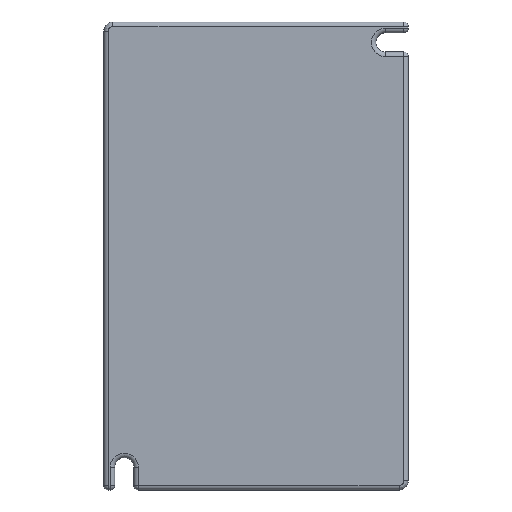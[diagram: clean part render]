
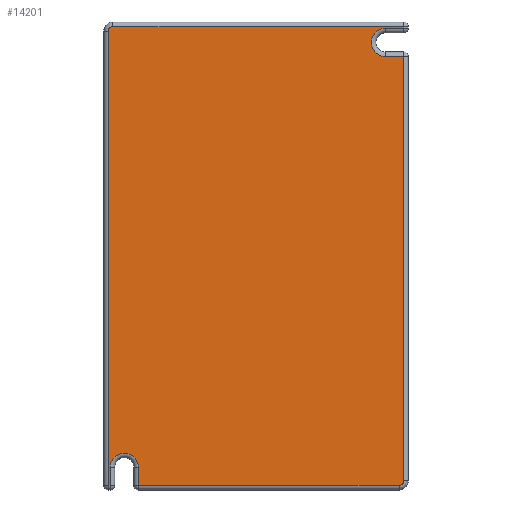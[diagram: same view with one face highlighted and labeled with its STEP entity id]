
A CAD part, front view. The second image highlights one B-rep face of the part: STEP entity #14201.
In plain terms, the highlighted planar face has unit normal (0, -1, 0).
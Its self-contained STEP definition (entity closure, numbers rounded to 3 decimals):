
#4112=DIRECTION('',(0.,0.,-1.));
#4113=VECTOR('',#4112,100.);
#4114=CARTESIAN_POINT('',(-32.5,0.,49.5));
#4115=LINE('',#4114,#4113);
#4119=CARTESIAN_POINT('',(-31.5,0.,49.5));
#4120=DIRECTION('',(0.,-1.,0.));
#4121=DIRECTION('',(0.,0.,1.));
#4122=AXIS2_PLACEMENT_3D('',#4119,#4120,#4121);
#4127=DIRECTION('',(-1.,0.,0.));
#4128=VECTOR('',#4127,64.);
#4129=CARTESIAN_POINT('',(32.5,0.,50.5));
#4130=LINE('',#4129,#4128);
#4134=DIRECTION('',(0.,0.,1.));
#4135=VECTOR('',#4134,0.4);
#4136=CARTESIAN_POINT('',(32.5,0.,50.1));
#4137=LINE('',#4136,#4135);
#4141=DIRECTION('',(1.,0.,0.));
#4142=VECTOR('',#4141,4.);
#4143=CARTESIAN_POINT('',(28.5,0.,50.1));
#4144=LINE('',#4143,#4142);
#4148=CARTESIAN_POINT('',(28.5,0.,47.));
#4149=DIRECTION('',(0.,1.,0.));
#4150=DIRECTION('',(0.,0.,-1.));
#4151=AXIS2_PLACEMENT_3D('',#4148,#4149,#4150);
#4156=DIRECTION('',(-1.,0.,0.));
#4157=VECTOR('',#4156,4.);
#4158=CARTESIAN_POINT('',(32.5,0.,43.9));
#4159=LINE('',#4158,#4157);
#4163=DIRECTION('',(0.,0.,1.));
#4164=VECTOR('',#4163,93.4);
#4165=CARTESIAN_POINT('',(32.5,0.,-49.5));
#4166=LINE('',#4165,#4164);
#4170=CARTESIAN_POINT('',(31.5,0.,-49.5));
#4171=DIRECTION('',(0.,-1.,0.));
#4172=DIRECTION('',(0.,0.,-1.));
#4173=AXIS2_PLACEMENT_3D('',#4170,#4171,#4172);
#4178=DIRECTION('',(1.,0.,0.));
#4179=VECTOR('',#4178,57.4);
#4180=CARTESIAN_POINT('',(-25.9,0.,-50.5));
#4181=LINE('',#4180,#4179);
#4185=DIRECTION('',(0.,0.,-1.));
#4186=VECTOR('',#4185,4.);
#4187=CARTESIAN_POINT('',(-25.9,0.,-46.5));
#4188=LINE('',#4187,#4186);
#4192=CARTESIAN_POINT('',(-29.,0.,-46.5));
#4193=DIRECTION('',(0.,1.,0.));
#4194=DIRECTION('',(-1.,0.,0.));
#4195=AXIS2_PLACEMENT_3D('',#4192,#4193,#4194);
#4200=DIRECTION('',(0.,0.,1.));
#4201=VECTOR('',#4200,4.);
#4202=CARTESIAN_POINT('',(-32.1,0.,-50.5));
#4203=LINE('',#4202,#4201);
#4207=DIRECTION('',(1.,0.,0.));
#4208=VECTOR('',#4207,0.4);
#4209=CARTESIAN_POINT('',(-32.5,0.,-50.5));
#4210=LINE('',#4209,#4208);
#10682=CARTESIAN_POINT('',(-32.5,0.,49.5));
#10683=CARTESIAN_POINT('',(-32.5,0.,-50.5));
#10684=VERTEX_POINT('',#10682);
#10685=VERTEX_POINT('',#10683);
#10686=CARTESIAN_POINT('',(-31.5,0.,50.5));
#10687=VERTEX_POINT('',#10686);
#10690=CARTESIAN_POINT('',(32.5,0.,50.5));
#10691=VERTEX_POINT('',#10690);
#10698=CARTESIAN_POINT('',(32.5,0.,-49.5));
#10699=CARTESIAN_POINT('',(32.5,0.,43.9));
#10700=VERTEX_POINT('',#10698);
#10701=VERTEX_POINT('',#10699);
#10702=CARTESIAN_POINT('',(31.5,0.,-50.5));
#10703=VERTEX_POINT('',#10702);
#10706=CARTESIAN_POINT('',(-32.1,0.,-50.5));
#10707=VERTEX_POINT('',#10706);
#10722=CARTESIAN_POINT('',(32.5,0.,50.1));
#10723=VERTEX_POINT('',#10722);
#10724=CARTESIAN_POINT('',(-25.9,0.,-50.5));
#10725=VERTEX_POINT('',#10724);
#10726=CARTESIAN_POINT('',(-32.1,0.,-46.5));
#10727=CARTESIAN_POINT('',(-25.9,0.,-46.5));
#10728=VERTEX_POINT('',#10726);
#10729=VERTEX_POINT('',#10727);
#10734=CARTESIAN_POINT('',(28.5,0.,43.9));
#10735=VERTEX_POINT('',#10734);
#10738=CARTESIAN_POINT('',(28.5,0.,50.1));
#10739=VERTEX_POINT('',#10738);
#14168=CARTESIAN_POINT('',(0.,0.,0.));
#14169=DIRECTION('',(0.,1.,0.));
#14170=DIRECTION('',(1.,0.,0.));
#14171=AXIS2_PLACEMENT_3D('',#14168,#14169,#14170);
#14172=PLANE('',#14171);
#14173=ORIENTED_EDGE('',*,*,#14134,.F.);
#14174=ORIENTED_EDGE('',*,*,#14158,.F.);
#14176=ORIENTED_EDGE('',*,*,#14175,.F.);
#14178=ORIENTED_EDGE('',*,*,#14177,.F.);
#14180=ORIENTED_EDGE('',*,*,#14179,.F.);
#14182=ORIENTED_EDGE('',*,*,#14181,.F.);
#14184=ORIENTED_EDGE('',*,*,#14183,.F.);
#14186=ORIENTED_EDGE('',*,*,#14185,.F.);
#14188=ORIENTED_EDGE('',*,*,#14187,.F.);
#14190=ORIENTED_EDGE('',*,*,#14189,.F.);
#14192=ORIENTED_EDGE('',*,*,#14191,.F.);
#14194=ORIENTED_EDGE('',*,*,#14193,.F.);
#14196=ORIENTED_EDGE('',*,*,#14195,.F.);
#14198=ORIENTED_EDGE('',*,*,#14197,.F.);
#14199=EDGE_LOOP('',(#14173,#14174,#14176,#14178,#14180,#14182,#14184,#14186,
#14188,#14190,#14192,#14194,#14196,#14198));
#14200=FACE_OUTER_BOUND('',#14199,.F.);
#4123=CIRCLE('',#4122,1.);
#4152=CIRCLE('',#4151,3.1);
#4174=CIRCLE('',#4173,1.);
#4196=CIRCLE('',#4195,3.1);
#14134=EDGE_CURVE('',#10684,#10685,#4115,.T.);
#14158=EDGE_CURVE('',#10687,#10684,#4123,.T.);
#14175=EDGE_CURVE('',#10691,#10687,#4130,.T.);
#14177=EDGE_CURVE('',#10723,#10691,#4137,.T.);
#14179=EDGE_CURVE('',#10739,#10723,#4144,.T.);
#14181=EDGE_CURVE('',#10735,#10739,#4152,.T.);
#14183=EDGE_CURVE('',#10701,#10735,#4159,.T.);
#14185=EDGE_CURVE('',#10700,#10701,#4166,.T.);
#14187=EDGE_CURVE('',#10703,#10700,#4174,.T.);
#14189=EDGE_CURVE('',#10725,#10703,#4181,.T.);
#14191=EDGE_CURVE('',#10729,#10725,#4188,.T.);
#14193=EDGE_CURVE('',#10728,#10729,#4196,.T.);
#14195=EDGE_CURVE('',#10707,#10728,#4203,.T.);
#14197=EDGE_CURVE('',#10685,#10707,#4210,.T.);
#14201=ADVANCED_FACE('',(#14200),#14172,.F.);
